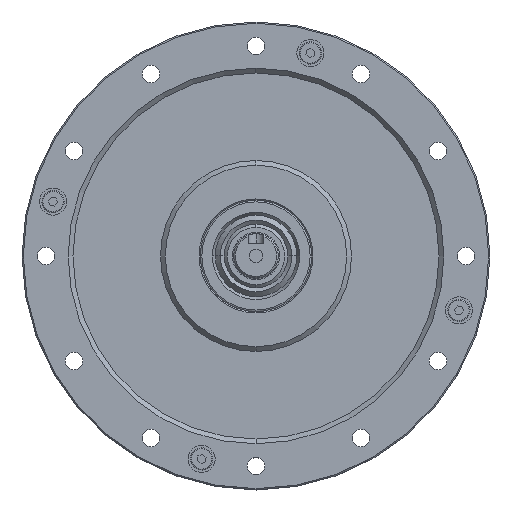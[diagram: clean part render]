
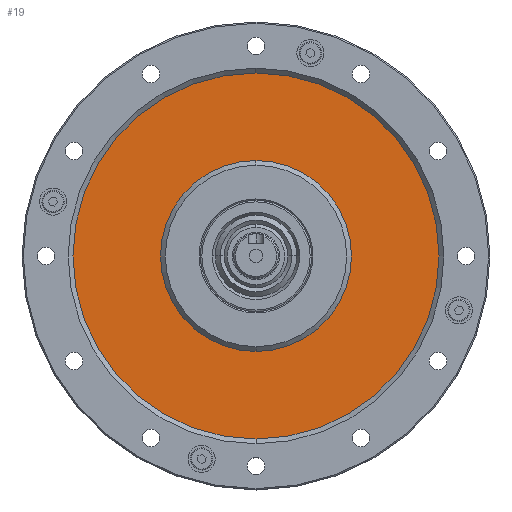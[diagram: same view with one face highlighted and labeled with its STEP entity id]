
A CAD part, top view. The second image highlights one B-rep face of the part: STEP entity #19.
In plain terms, the highlighted planar face has unit normal (0, 0, 1).
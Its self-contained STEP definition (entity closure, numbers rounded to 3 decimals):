
#19 = ADVANCED_FACE ( 'NONE', ( #2373, #2164 ), #8805, .T. ) ;
#482 = CIRCLE ( 'NONE', #7703, 57.5 ) ;
#1029 = CARTESIAN_POINT ( 'NONE',  ( -4.057, -17.659, 161.3 ) ) ;
#1164 = CIRCLE ( 'NONE', #6282, 30. ) ;
#1400 = DIRECTION ( 'NONE',  ( 0., 0., 1. ) ) ;
#1426 = DIRECTION ( 'NONE',  ( 0., -1., 0. ) ) ;
#1521 = CARTESIAN_POINT ( 'NONE',  ( -4.057, -45.159, 161.3 ) ) ;
#1709 = CARTESIAN_POINT ( 'NONE',  ( -4.057, 12.341, 161.3 ) ) ;
#1897 = EDGE_CURVE ( 'NONE', #1937, #7316, #1164, .T. ) ;
#1937 = VERTEX_POINT ( 'NONE', #1029 ) ;
#1944 = CARTESIAN_POINT ( 'NONE',  ( -4.057, 12.341, 161.3 ) ) ;
#2029 = DIRECTION ( 'NONE',  ( 0., -1., 0. ) ) ;
#2164 = FACE_OUTER_BOUND ( 'NONE', #7949, .T. ) ;
#2373 = FACE_BOUND ( 'NONE', #7110, .T. ) ;
#2463 = CARTESIAN_POINT ( 'NONE',  ( -4.057, 69.841, 161.3 ) ) ;
#2604 = EDGE_CURVE ( 'NONE', #7250, #6033, #6666, .T. ) ;
#3286 = DIRECTION ( 'NONE',  ( 0., 0., 1. ) ) ;
#3318 = CARTESIAN_POINT ( 'NONE',  ( -4.057, 12.341, 161.3 ) ) ;
#3546 = DIRECTION ( 'NONE',  ( 0., -1., 0. ) ) ;
#3751 = CARTESIAN_POINT ( 'NONE',  ( -4.057, 42.341, 161.3 ) ) ;
#4380 = DIRECTION ( 'NONE',  ( 0., -1., 0. ) ) ;
#4416 = ORIENTED_EDGE ( 'NONE', *, *, #5498, .F. ) ;
#4553 = DIRECTION ( 'NONE',  ( 0., 0., 1. ) ) ;
#4569 = AXIS2_PLACEMENT_3D ( 'NONE', #5643, #5662, #5675 ) ;
#4769 = ORIENTED_EDGE ( 'NONE', *, *, #6081, .T. ) ;
#4782 = ORIENTED_EDGE ( 'NONE', *, *, #1897, .F. ) ;
#5192 = CIRCLE ( 'NONE', #4569, 30. ) ;
#5289 = DIRECTION ( 'NONE',  ( 0., 0., 1. ) ) ;
#5498 = EDGE_CURVE ( 'NONE', #7316, #1937, #5192, .T. ) ;
#5643 = CARTESIAN_POINT ( 'NONE',  ( -4.057, 12.341, 161.3 ) ) ;
#5662 = DIRECTION ( 'NONE',  ( 0., 0., 1. ) ) ;
#5675 = DIRECTION ( 'NONE',  ( 0., -1., 0. ) ) ;
#6033 = VERTEX_POINT ( 'NONE', #1521 ) ;
#6064 = CARTESIAN_POINT ( 'NONE',  ( -4.057, 12.341, 161.3 ) ) ;
#6081 = EDGE_CURVE ( 'NONE', #6033, #7250, #482, .T. ) ;
#6282 = AXIS2_PLACEMENT_3D ( 'NONE', #1944, #4553, #2029 ) ;
#6666 = CIRCLE ( 'NONE', #8113, 57.5 ) ;
#7110 = EDGE_LOOP ( 'NONE', ( #4416, #4782 ) ) ;
#7250 = VERTEX_POINT ( 'NONE', #2463 ) ;
#7316 = VERTEX_POINT ( 'NONE', #3751 ) ;
#7703 = AXIS2_PLACEMENT_3D ( 'NONE', #3318, #3286, #3546 ) ;
#7784 = AXIS2_PLACEMENT_3D ( 'NONE', #6064, #5289, #4380 ) ;
#7949 = EDGE_LOOP ( 'NONE', ( #4769, #8411 ) ) ;
#8113 = AXIS2_PLACEMENT_3D ( 'NONE', #1709, #1400, #1426 ) ;
#8411 = ORIENTED_EDGE ( 'NONE', *, *, #2604, .T. ) ;
#8805 = PLANE ( 'NONE',  #7784 ) ;
